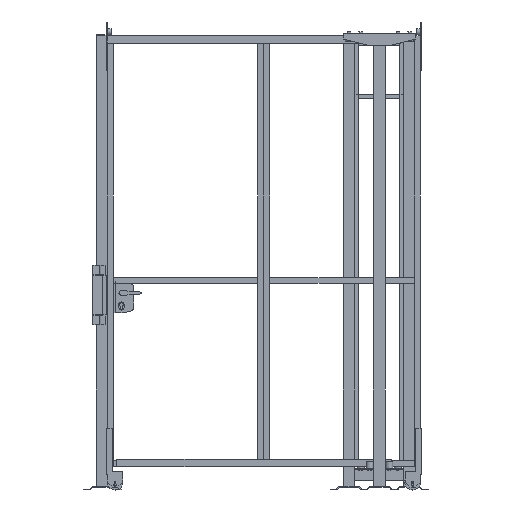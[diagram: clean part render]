
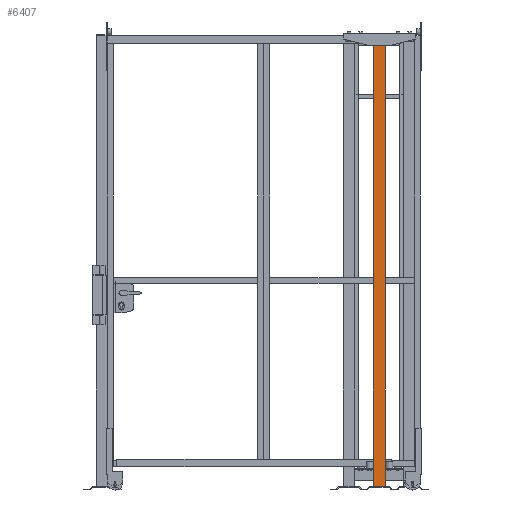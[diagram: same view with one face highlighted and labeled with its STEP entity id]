
A CAD part, front view. The second image highlights one B-rep face of the part: STEP entity #6407.
In plain terms, the highlighted planar face has unit normal (0, -1, 0) as drawn and (-1, 0, 0) by its records, which use the part's own axes.
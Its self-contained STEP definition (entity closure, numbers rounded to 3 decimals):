
#585=FACE_OUTER_BOUND('',#1105,.T.);
#1105=EDGE_LOOP('',(#3886,#3887,#3888,#3889));
#1683=VERTEX_POINT('',#13762);
#1684=VERTEX_POINT('',#13764);
#1687=VERTEX_POINT('',#13771);
#1688=VERTEX_POINT('',#13773);
#2529=EDGE_CURVE('',#1683,#1684,#7559,.T.);
#2533=EDGE_CURVE('',#1687,#1688,#7563,.T.);
#2535=EDGE_CURVE('',#1684,#1687,#7565,.T.);
#2537=EDGE_CURVE('',#1683,#1688,#7567,.T.);
#3886=ORIENTED_EDGE('',*,*,#2537,.T.);
#3887=ORIENTED_EDGE('',*,*,#2533,.F.);
#3888=ORIENTED_EDGE('',*,*,#2535,.F.);
#3889=ORIENTED_EDGE('',*,*,#2529,.F.);
#5957=PLANE('',#9721);
#6407=ADVANCED_FACE('',(#585),#5957,.F.);
#7559=LINE('',#13765,#8717);
#7563=LINE('',#13774,#8721);
#7565=LINE('',#13777,#8723);
#7567=LINE('',#13780,#8725);
#8717=VECTOR('',#10826,1.);
#8721=VECTOR('',#10832,1.);
#8723=VECTOR('',#10836,1.);
#8725=VECTOR('',#10840,1.);
#9721=AXIS2_PLACEMENT_3D('',#13779,#10838,#10839);
#10826=DIRECTION('',(0.,-1.,0.));
#10832=DIRECTION('',(0.,1.,0.));
#10836=DIRECTION('',(0.,0.,-1.));
#10838=DIRECTION('center_axis',(1.,0.,0.));
#10839=DIRECTION('ref_axis',(0.,0.,-1.));
#10840=DIRECTION('',(0.,0.,-1.));
#13762=CARTESIAN_POINT('',(-30.,30.,2320.));
#13764=CARTESIAN_POINT('',(-30.,-30.,2320.));
#13765=CARTESIAN_POINT('',(-30.,0.,2320.));
#13771=CARTESIAN_POINT('',(-30.,-30.,20.));
#13773=CARTESIAN_POINT('',(-30.,30.,20.));
#13774=CARTESIAN_POINT('',(-30.,0.,20.));
#13777=CARTESIAN_POINT('',(-30.,-30.,1170.));
#13779=CARTESIAN_POINT('Origin',(-30.,0.,
1170.));
#13780=CARTESIAN_POINT('',(-30.,30.,1170.));
